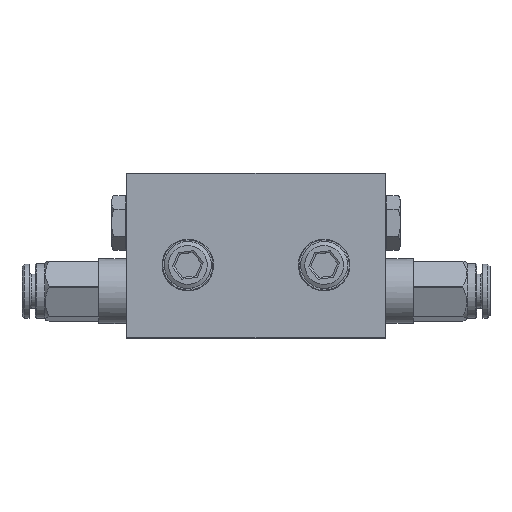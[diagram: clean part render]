
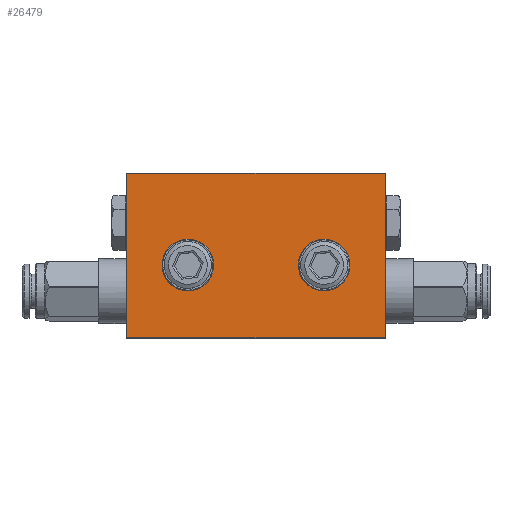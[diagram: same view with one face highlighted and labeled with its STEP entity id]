
A CAD part, top view. The second image highlights one B-rep face of the part: STEP entity #26479.
In plain terms, the highlighted planar face has unit normal (0, 0, 1) as drawn and (0, 0, -1) by its records, which use the part's own axes.
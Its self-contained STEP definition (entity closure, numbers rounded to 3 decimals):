
#507 = EDGE_CURVE ( 'NONE', #40794, #21241, #43959, .T. ) ;
#1161 = CARTESIAN_POINT ( 'NONE',  ( 27.5, 0., -4.85 ) ) ;
#1509 = DIRECTION ( 'NONE',  ( 1., 0., 0. ) ) ;
#2004 = AXIS2_PLACEMENT_3D ( 'NONE', #42132, #16499, #1509 ) ;
#3612 = EDGE_CURVE ( 'NONE', #14313, #40794, #45879, .T. ) ;
#5494 = CARTESIAN_POINT ( 'NONE',  ( 0., 0., -4.85 ) ) ;
#5669 = VERTEX_POINT ( 'NONE', #23237 ) ;
#6806 = DIRECTION ( 'NONE',  ( 1., 0., 0. ) ) ;
#10433 = EDGE_CURVE ( 'NONE', #21241, #5669, #33280, .T. ) ;
#14313 = VERTEX_POINT ( 'NONE', #43859 ) ;
#14338 = VERTEX_POINT ( 'NONE', #15008 ) ;
#14616 = FACE_BOUND ( 'NONE', #24556, .T. ) ;
#15008 = CARTESIAN_POINT ( 'NONE',  ( 11.4, -15.5, -4.85 ) ) ;
#16147 = DIRECTION ( 'NONE',  ( 0., 1., 0. ) ) ;
#16499 = DIRECTION ( 'NONE',  ( 0., 0., -1. ) ) ;
#19582 = EDGE_CURVE ( 'NONE', #5669, #14313, #38346, .T. ) ;
#20259 = EDGE_CURVE ( 'NONE', #39033, #39033, #35620, .T. ) ;
#20527 = CARTESIAN_POINT ( 'NONE',  ( 14.5, -15.5, -4.85 ) ) ;
#20547 = EDGE_LOOP ( 'NONE', ( #33997, #33406, #37744, #41819 ) ) ;
#21241 = VERTEX_POINT ( 'NONE', #39638 ) ;
#21419 = DIRECTION ( 'NONE',  ( 1., 0., 0. ) ) ;
#22687 = CIRCLE ( 'NONE', #28191, 3.1 ) ;
#23237 = CARTESIAN_POINT ( 'NONE',  ( 27.5, -35., -4.85 ) ) ;
#23246 = VECTOR ( 'NONE', #35123, 1000. ) ;
#24556 = EDGE_LOOP ( 'NONE', ( #29485 ) ) ;
#26479 = ADVANCED_FACE ( 'NONE', ( #48056, #14616, #48304 ), #36495, .F. ) ;
#27774 = CARTESIAN_POINT ( 'NONE',  ( -27.5, 0., -4.85 ) ) ;
#28191 = AXIS2_PLACEMENT_3D ( 'NONE', #20527, #46612, #31979 ) ;
#28982 = DIRECTION ( 'NONE',  ( 0., 0., 1. ) ) ;
#29485 = ORIENTED_EDGE ( 'NONE', *, *, #42346, .F. ) ;
#31979 = DIRECTION ( 'NONE',  ( -1., 0., 0. ) ) ;
#32466 = CARTESIAN_POINT ( 'NONE',  ( -11.4, -15.5, -4.85 ) ) ;
#32968 = CARTESIAN_POINT ( 'NONE',  ( -27.5, 0., -4.85 ) ) ;
#33280 = LINE ( 'NONE', #40348, #36093 ) ;
#33406 = ORIENTED_EDGE ( 'NONE', *, *, #507, .F. ) ;
#33997 = ORIENTED_EDGE ( 'NONE', *, *, #10433, .F. ) ;
#35123 = DIRECTION ( 'NONE',  ( -1., 0., 0. ) ) ;
#35620 = CIRCLE ( 'NONE', #2004, 3.1 ) ;
#35711 = ORIENTED_EDGE ( 'NONE', *, *, #20259, .F. ) ;
#36093 = VECTOR ( 'NONE', #6806, 1000. ) ;
#36416 = EDGE_LOOP ( 'NONE', ( #35711 ) ) ;
#36495 = PLANE ( 'NONE',  #43554 ) ;
#37744 = ORIENTED_EDGE ( 'NONE', *, *, #3612, .F. ) ;
#38162 = VECTOR ( 'NONE', #47864, 1000. ) ;
#38346 = LINE ( 'NONE', #1161, #46664 ) ;
#39033 = VERTEX_POINT ( 'NONE', #32466 ) ;
#39638 = CARTESIAN_POINT ( 'NONE',  ( -27.5, -35., -4.85 ) ) ;
#40167 = CARTESIAN_POINT ( 'NONE',  ( 0., 0., -4.85 ) ) ;
#40348 = CARTESIAN_POINT ( 'NONE',  ( 0., -35., -4.85 ) ) ;
#40794 = VERTEX_POINT ( 'NONE', #27774 ) ;
#41819 = ORIENTED_EDGE ( 'NONE', *, *, #19582, .F. ) ;
#42132 = CARTESIAN_POINT ( 'NONE',  ( -14.5, -15.5, -4.85 ) ) ;
#42346 = EDGE_CURVE ( 'NONE', #14338, #14338, #22687, .T. ) ;
#43554 = AXIS2_PLACEMENT_3D ( 'NONE', #40167, #28982, #21419 ) ;
#43859 = CARTESIAN_POINT ( 'NONE',  ( 27.5, 0., -4.85 ) ) ;
#43959 = LINE ( 'NONE', #32968, #38162 ) ;
#45879 = LINE ( 'NONE', #5494, #23246 ) ;
#46612 = DIRECTION ( 'NONE',  ( 0., 0., -1. ) ) ;
#46664 = VECTOR ( 'NONE', #16147, 1000. ) ;
#47864 = DIRECTION ( 'NONE',  ( 0., -1., 0. ) ) ;
#48056 = FACE_BOUND ( 'NONE', #36416, .T. ) ;
#48304 = FACE_OUTER_BOUND ( 'NONE', #20547, .T. ) ;
